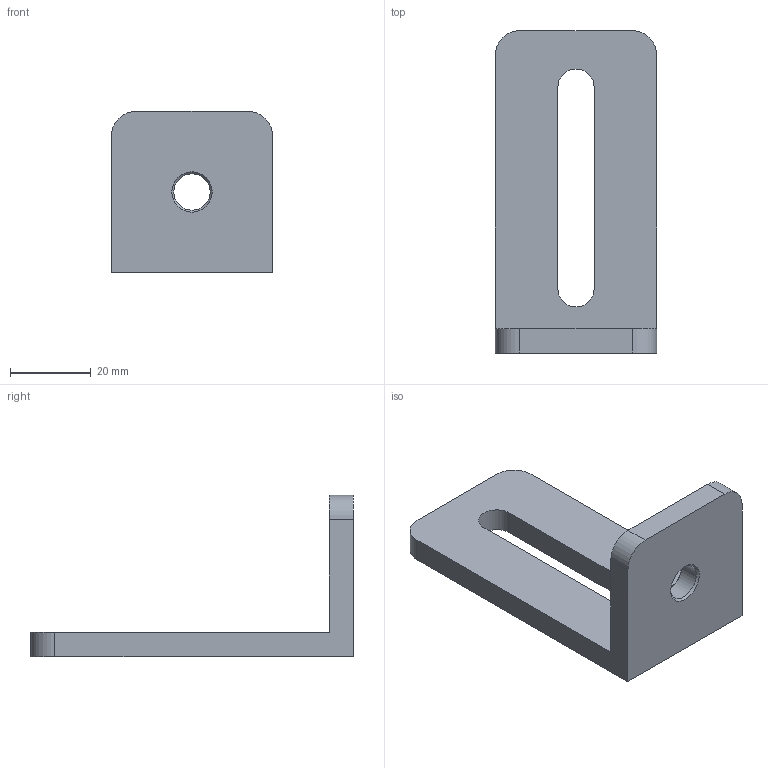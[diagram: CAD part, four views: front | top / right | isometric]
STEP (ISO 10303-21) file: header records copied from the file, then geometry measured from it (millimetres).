
FILE_DESCRIPTION(/* description */ ('STEP AP203'),/* implementation_level */ '2;1');
FILE_NAME(/* name */ '093WU4080V(high)',/* time_stamp */ '2026-07-08T11:14:17+02:00',/* author */ ('License CC BY-ND 4.0'),/* organization */ ('CADENAS'),/* preprocessor_version */ 'ST-DEVELOPER v20',/* originating_system */ 'PARTsolutions',/* authorisation */ ' ');
FILE_SCHEMA (('CONFIG_CONTROL_DESIGN'));
Length unit declared in the file: millimetre
Products named in the file (1): 093WU4080V(high)
Bounding box: 40 x 80 x 40 mm (x, y, z)
Volume: 23703.8 mm3; surface area: 10613.3 mm2
Topology: 1 solids, 1 shells, 19 faces, 49 edges, 32 vertices
Faces by surface type: plane 10, cylinder 7, cone 2
Full cylindrical faces by diameter (mm): 9 x1
Entity records: 597 total; most frequent: DIRECTION 102, CARTESIAN_POINT 98, ORIENTED_EDGE 92, EDGE_CURVE 46, AXIS2_PLACEMENT_3D 36, VERTEX_POINT 32, LINE 30, VECTOR 30
